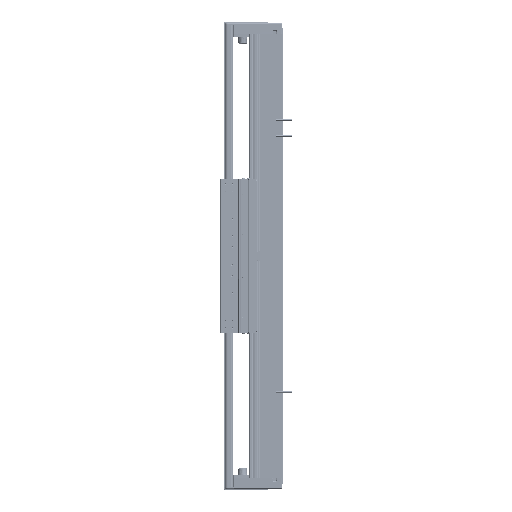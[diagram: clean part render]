
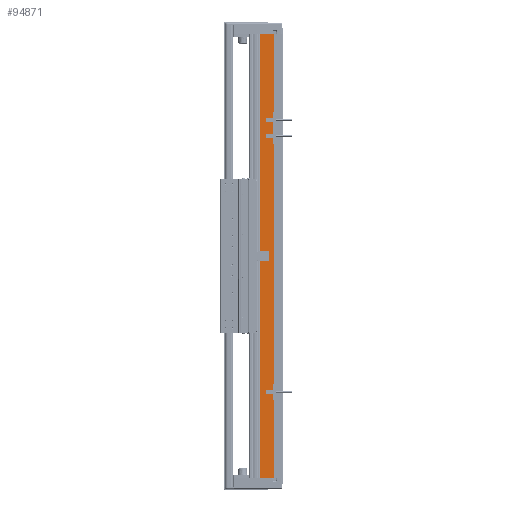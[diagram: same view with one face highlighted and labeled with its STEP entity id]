
A CAD part, left-side view. The second image highlights one B-rep face of the part: STEP entity #94871.
In plain terms, the highlighted planar face has unit normal (-1, 0, 0).
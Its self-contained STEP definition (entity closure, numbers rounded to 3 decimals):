
#1476 = EDGE_CURVE ( 'NONE', #28663, #85042, #23302, .T. ) ;
#12296 = EDGE_CURVE ( 'NONE', #47183, #117674, #134456, .T. ) ;
#14958 = CARTESIAN_POINT ( 'NONE',  ( -97.5, 14.45, -360. ) ) ;
#15404 = VECTOR ( 'NONE', #62323, 1000. ) ;
#19652 = DIRECTION ( 'NONE',  ( 0., -1., 0. ) ) ;
#23302 = LINE ( 'NONE', #43068, #37303 ) ;
#28369 = CARTESIAN_POINT ( 'NONE',  ( -97.5, 36.95, 360. ) ) ;
#28663 = VERTEX_POINT ( 'NONE', #35711 ) ;
#31510 = DIRECTION ( 'NONE',  ( 0., 0., -1. ) ) ;
#35711 = CARTESIAN_POINT ( 'NONE',  ( -97.5, 14.45, 360. ) ) ;
#37303 = VECTOR ( 'NONE', #31510, 1000. ) ;
#38876 = AXIS2_PLACEMENT_3D ( 'NONE', #28369, #124339, #82882 ) ;
#41177 = CARTESIAN_POINT ( 'NONE',  ( -97.5, 36.95, 360. ) ) ;
#41437 = CARTESIAN_POINT ( 'NONE',  ( -97.5, 36.95, -360. ) ) ;
#43068 = CARTESIAN_POINT ( 'NONE',  ( -97.5, 14.45, 360. ) ) ;
#47183 = VERTEX_POINT ( 'NONE', #86823 ) ;
#59432 = ORIENTED_EDGE ( 'NONE', *, *, #97040, .F. ) ;
#59724 = FACE_OUTER_BOUND ( 'NONE', #67282, .T. ) ;
#62323 = DIRECTION ( 'NONE',  ( 0., 0., -1. ) ) ;
#67282 = EDGE_LOOP ( 'NONE', ( #74926, #120483, #59432, #124353 ) ) ;
#68160 = LINE ( 'NONE', #96767, #125979 ) ;
#74926 = ORIENTED_EDGE ( 'NONE', *, *, #85270, .T. ) ;
#82882 = DIRECTION ( 'NONE',  ( 0., 1., 0. ) ) ;
#85042 = VERTEX_POINT ( 'NONE', #14958 ) ;
#85270 = EDGE_CURVE ( 'NONE', #117674, #85042, #134041, .T. ) ;
#86823 = CARTESIAN_POINT ( 'NONE',  ( -97.5, 36.95, 360. ) ) ;
#94871 = ADVANCED_FACE ( 'NONE', ( #59724 ), #122327, .F. ) ;
#96767 = CARTESIAN_POINT ( 'NONE',  ( -97.5, 36.95, 360. ) ) ;
#97040 = EDGE_CURVE ( 'NONE', #47183, #28663, #68160, .T. ) ;
#109653 = DIRECTION ( 'NONE',  ( 0., -1., 0. ) ) ;
#117674 = VERTEX_POINT ( 'NONE', #127981 ) ;
#120483 = ORIENTED_EDGE ( 'NONE', *, *, #1476, .F. ) ;
#122327 = PLANE ( 'NONE',  #38876 ) ;
#124339 = DIRECTION ( 'NONE',  ( 1., 0., 0. ) ) ;
#124353 = ORIENTED_EDGE ( 'NONE', *, *, #12296, .T. ) ;
#125979 = VECTOR ( 'NONE', #109653, 1000. ) ;
#127981 = CARTESIAN_POINT ( 'NONE',  ( -97.5, 36.95, -360. ) ) ;
#130203 = VECTOR ( 'NONE', #19652, 1000. ) ;
#134041 = LINE ( 'NONE', #41437, #130203 ) ;
#134456 = LINE ( 'NONE', #41177, #15404 ) ;
